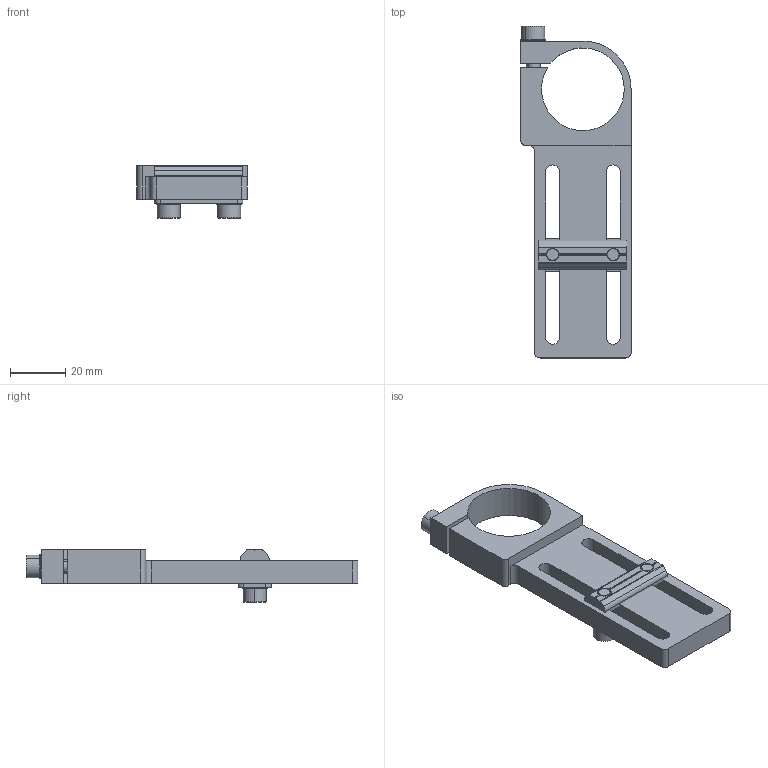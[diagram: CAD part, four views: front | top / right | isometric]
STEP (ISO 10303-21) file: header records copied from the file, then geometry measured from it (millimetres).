
FILE_DESCRIPTION (( 'STEP AP214' ), '1' );
FILE_NAME ('SMBE1-3060T.STEP', '2022-12-14T02:56:56', ( '' ), ( '' ), 'SwSTEP 2.0', 'SolidWorks 2018', '' );
FILE_SCHEMA (( 'AUTOMOTIVE_DESIGN' ));
Length unit declared in the file: millimetre
Products named in the file (1): SMBE1-3060T
Bounding box: 40 x 120.45 x 19 mm (x, y, z)
Volume: 28121.4 mm3; surface area: 16233.8 mm2
Topology: 9 solids, 9 shells, 649 faces, 1884 edges, 1250 vertices
Faces by surface type: plane 561, cylinder 70, cone 18
Entity records: 28941 total; most frequent: CARTESIAN_POINT 3976, DIRECTION 3782, ORIENTED_EDGE 3768, EDGE_CURVE 1884, AXIS2_PLACEMENT_3D 1280, VERTEX_POINT 1250, VECTOR 1222, LINE 1222
